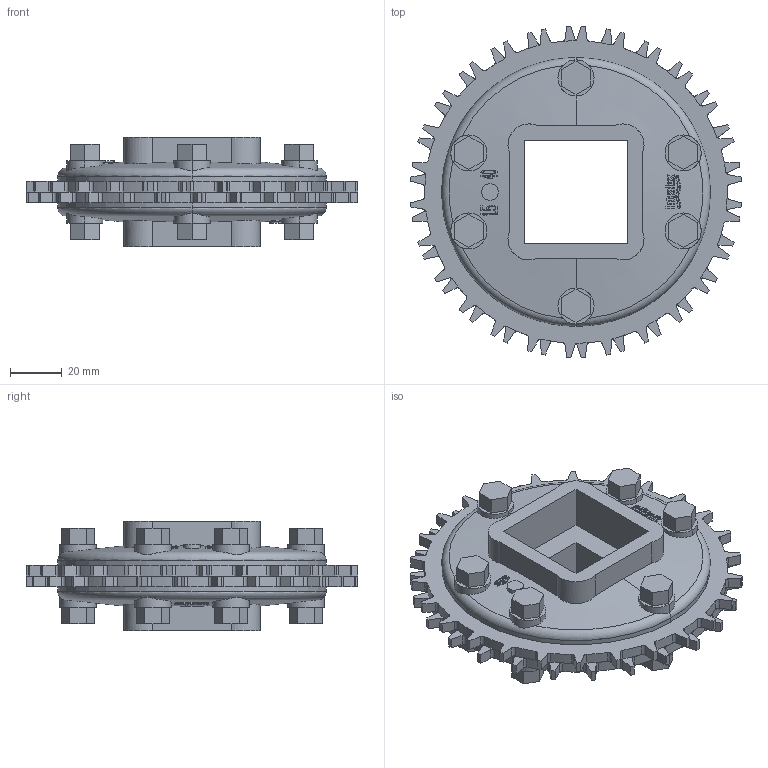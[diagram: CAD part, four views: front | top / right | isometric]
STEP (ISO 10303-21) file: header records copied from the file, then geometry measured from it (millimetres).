
FILE_DESCRIPTION((''),'2;1');
FILE_NAME('S1100_SPL_METAL_51X15_40_SQ_ASM','2008-12-12T',('jmumphre'),(''),'PRO/ENGINEER BY PARAMETRIC TECHNOLOGY CORPORATION, 2008150','PRO/ENGINEER BY PARAMETRIC TECHNOLOGY CORPORATION, 2008150','');
FILE_SCHEMA(('CONFIG_CONTROL_DESIGN'));
Length unit declared in the file: inch
Products named in the file (6): JOINING_PLATE_5X15_40_SQ_AF10; JOINING_PLATE_5X15_40_SQ_AF11; S1100_TP_METAL_51X254_SQ_AF0; S1100_TP_METAL_51X254_SQ_AF1; BOLTS_N_NUTS_3-480X0-958_AF1; S1100_SPL_METAL_51X15_40_SQ_ASM
Assembly tree (5 placements, depth 2):
  S1100_SPL_METAL_51X15_40_SQ_ASM
    JOINING_PLATE_5X15_40_SQ_AF10
    JOINING_PLATE_5X15_40_SQ_AF11
    S1100_TP_METAL_51X254_SQ_AF0
    S1100_TP_METAL_51X254_SQ_AF1
    BOLTS_N_NUTS_3-480X0-958_AF1
Bounding box: 128.42 x 128.5 x 42.37 mm (x, y, z)
Volume: 174735.6 mm3; surface area: 85707.6 mm2
Topology: 10 solids, 10 shells, 1256 faces, 3516 edges, 2340 vertices
Faces by surface type: plane 746, cylinder 456, cone 50, torus 4
Entity records: 43691 total; most frequent: CARTESIAN_POINT 13147, ORIENTED_EDGE 7032, DIRECTION 5270, EDGE_CURVE 3516, VERTEX_POINT 2340, AXIS2_PLACEMENT_3D 1807, VECTOR 1656, LINE 1656
